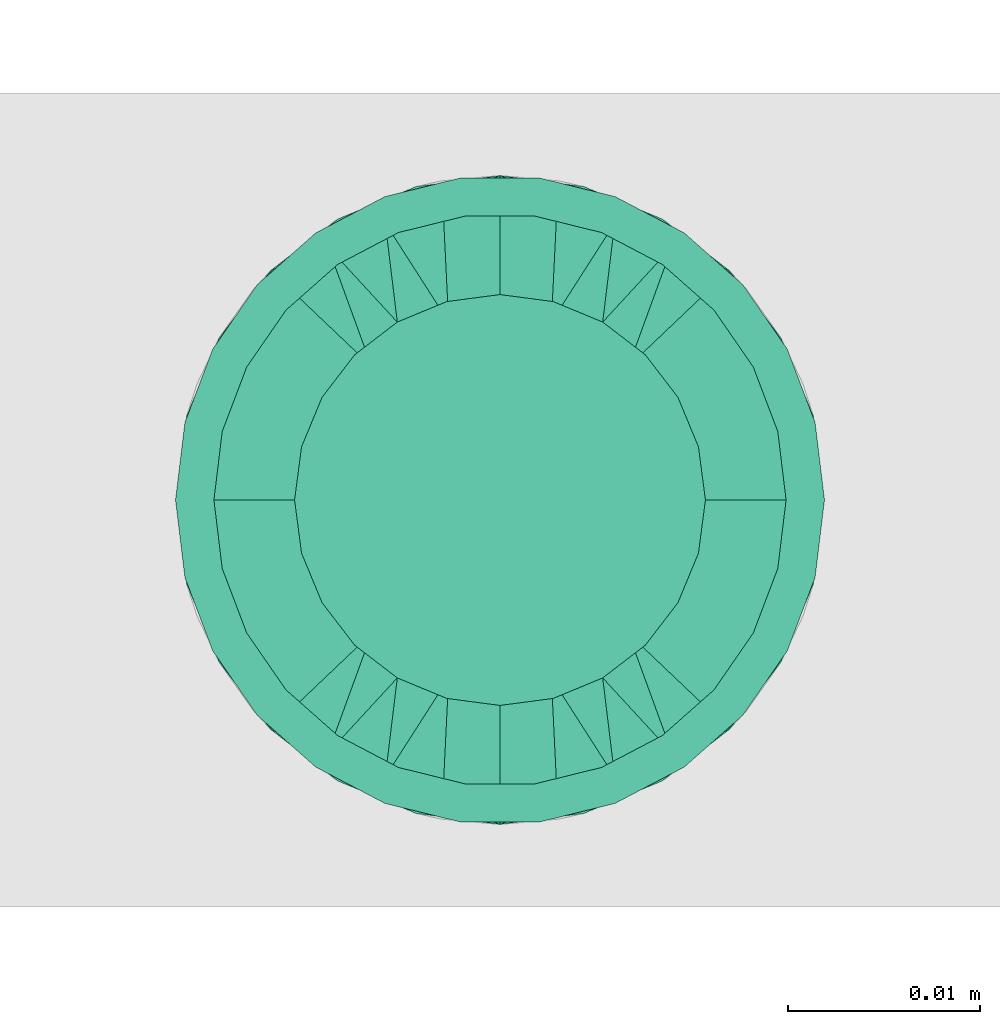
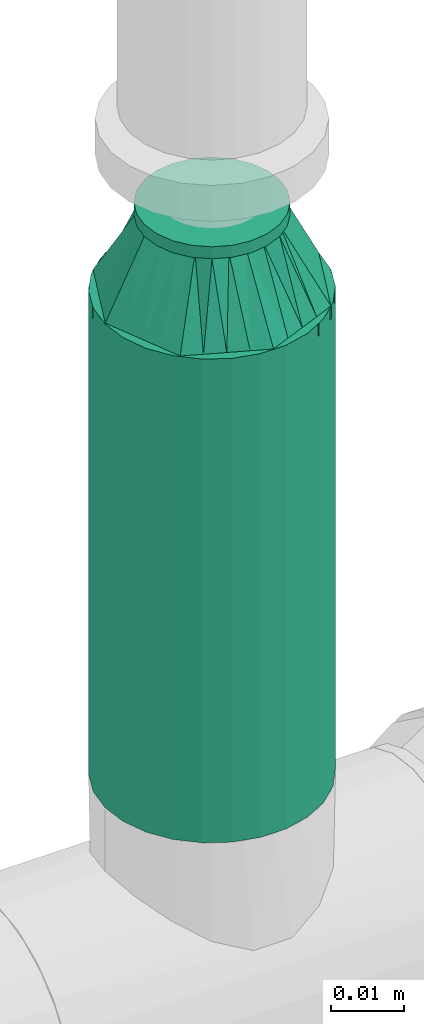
# One storey, part 76 of 94: 1 flow fitting, 1 flow segment.
"""IFC2X3 building model written with IfcOpenShell, lengths in millimetres."""

from ifc_helpers import new_model, entity, si_unit, converted_unit, derived_unit, direction, frame, origin_with_axes, origin_2d_with_axis, place, context, subcontext, project, spatial, hollow_circle, extrude, open_shell, surface_model, source, transform, mapped, type_object, element, save


model = new_model("IFC2X3")

# Units and contexts
model_context = context("Model", 3, precision=0.01, world=frame((0.0, 4.29681676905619e-09, 0.0)), true_north=direction((4.01073788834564e-13, 1.0)))
plan_context = context("Plan", 3, precision=0.01, world=frame((0.0, 4.29681676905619e-09, 0.0)), true_north=direction((4.01073788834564e-13, 1.0)))
body_context = subcontext(model_context, "Body", "Model", "MODEL_VIEW")
ifc_project = project(units=[converted_unit("PLANEANGLEUNIT", "DEGREE", entity("IfcPositiveLengthMeasure", 0.0174532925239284), si_unit("PLANEANGLEUNIT", "RADIAN"), dimensions=[0, 0, 0, 0, 0, 0, 0]), si_unit("AREAUNIT", "SQUARE_METRE"), si_unit("LENGTHUNIT", "METRE", prefix="MILLI"), si_unit("MASSUNIT", "GRAM", prefix="KILO"), si_unit("POWERUNIT", "WATT"), si_unit("PRESSUREUNIT", "PASCAL"), si_unit("FORCEUNIT", "NEWTON", prefix="KILO"), si_unit("ELECTRICCURRENTUNIT", "AMPERE"), si_unit("THERMODYNAMICTEMPERATUREUNIT", "DEGREE_CELSIUS"), si_unit("TIMEUNIT", "SECOND"), si_unit("VOLUMEUNIT", "CUBIC_METRE"), derived_unit("LINEARVELOCITYUNIT", [(si_unit("LENGTHUNIT", "METRE"), 1), (si_unit("TIMEUNIT", "SECOND"), -1)]), derived_unit("VOLUMETRICFLOWRATEUNIT", [(si_unit("VOLUMEUNIT", "CUBIC_METRE"), 1), (si_unit("TIMEUNIT", "SECOND"), -1)]), derived_unit("THERMALTRANSMITTANCEUNIT", [(si_unit("POWERUNIT", "WATT"), 1), (si_unit("THERMODYNAMICTEMPERATUREUNIT", "KELVIN"), -1), (si_unit("AREAUNIT", "SQUARE_METRE"), -1)])], contexts=[model_context, plan_context])

# Site, building, storey
site_placement = place(None, frame((0.0, -4.29681676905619e-09, 0.0), z_axis=(0.0, 0.0, 1.0), x_axis=(1.0, 0.0, 0.0)))
site = spatial("IfcSite", under=ifc_project, at=site_placement, CompositionType="ELEMENT")
building_placement = place(site_placement, frame((0.0, 4.29681676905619e-09, 0.0), z_axis=(0.0, 0.0, 1.0), x_axis=(1.0, 0.0, 0.0)))
building = spatial("IfcBuilding", under=site, at=building_placement, Name="mc-building", CompositionType="ELEMENT")
storey_placement = place(building_placement, frame((0.0, 0.0, 200300.0), z_axis=(0.0, 0.0, 1.0), x_axis=(1.0, 0.0, 0.0)))
storey = spatial("IfcBuildingStorey", under=building, at=storey_placement, Name="Nivå C", CompositionType="ELEMENT", Elevation=200300.0)

# Flow fitting
pipe_fitting_type = type_object("IfcPipeFittingType", Name="magi_pipe_fe_reducer_centric_short_NOR", PredefinedType="TRANSITION")
shared_shape_1 = source(origin_with_axes(), body_context, "Body", "SurfaceModel", [
    surface_model("IfcShellBasedSurfaceModel", [(14.4, 5.35, -9.26647), (14.4, 0.0, -10.7), (14.4, 2.76936, -10.33541), (14.4, 10.33541, -2.76936), (14.4, 7.56604, -7.56604), (14.4, -10.33541, -2.76936), (14.4, 9.26647, -5.35), (14.4, 0.0, 10.7), (14.4, -5.35, -9.26647), (14.4, -2.76936, -10.33541), (14.4, -7.56604, -7.56604), (14.4, -9.26647, -5.35), (14.4, 10.7, 0.0), (14.4, 10.33541, 2.76936), (14.4, 9.26647, 5.35), (14.4, 7.56604, 7.56604), (14.4, 2.76936, 10.33541), (14.4, 5.35, 9.26647), (14.4, -10.33541, 2.76936), (14.4, -7.56604, 7.56604), (14.4, -9.26647, 5.35), (14.4, -10.7, 0.0), (14.4, -2.76936, 10.33541), (14.4, -5.35, 9.26647), (12.4, 2.76936, 10.33541), (12.4, -10.33541, -2.76936), (12.4, 0.0, 10.7), (12.4, 5.35, 9.26647), (12.4, 7.56604, 7.56604), (12.4, 9.26647, 5.35), (12.4, 10.33541, 2.76936), (12.4, -10.33541, 2.76936), (12.4, -2.76936, 10.33541), (12.4, -7.56604, 7.56604), (12.4, -5.35, 9.26647), (12.4, -9.26647, 5.35), (12.4, -10.7, 0.0), (12.4, 10.33541, -2.76936), (12.4, 5.35, -9.26647), (12.4, 9.26647, -5.35), (12.4, 7.56604, -7.56604), (12.4, 2.76936, -10.33541), (12.4, -9.26647, -5.35), (12.4, -5.35, -9.26647), (12.4, -7.56604, -7.56604), (12.4, 0.0, -10.7), (12.4, -2.76936, -10.33541), (12.4, 10.7, 0.0), (-2.0, 11.9501, 11.9501), (-2.0, 0.0, 16.9), (-2.0, 4.37404, 16.32415), (-2.0, 8.45, 14.63583), (-2.0, 14.63583, 8.45), (-2.0, 16.32415, 4.37404), (-2.0, -16.32415, 4.37404), (-2.0, -8.45, 14.63583), (-2.0, -14.63583, 8.45), (-2.0, -11.9501, 11.9501), (-2.0, -4.37404, 16.32415), (-2.0, -16.32415, -4.37404), (-2.0, -16.9, 0.0), (-2.0, -8.45, -14.63583), (-2.0, 16.32415, -4.37404), (-2.0, 11.9501, -11.9501), (-2.0, 14.63583, -8.45), (-2.0, 8.45, -14.63583), (-2.0, 4.37404, -16.32415), (-2.0, 0.0, -16.9), (-2.0, -11.9501, -11.9501), (-2.0, -14.63583, -8.45), (-2.0, -4.37404, -16.32415), (-2.0, 16.9, 0.0), (0.0, 4.37404, -16.32415), (0.0, 8.45, -14.63583), (0.0, 11.9501, -11.9501), (0.0, 0.0, -16.9), (0.0, 16.32415, -4.37404), (0.0, 16.32415, 4.37404), (0.0, 14.63583, -8.45), (0.0, -8.45, -14.63583), (0.0, -4.37404, -16.32415), (0.0, -11.9501, -11.9501), (0.0, -16.32415, -4.37404), (0.0, -14.63583, -8.45), (0.0, -16.32415, 4.37404), (0.0, 16.9, 0.0), (0.0, 14.63583, 8.45), (0.0, 11.9501, 11.9501), (0.0, 4.37404, 16.32415), (0.0, 8.45, 14.63583), (0.0, 0.0, 16.9), (0.0, -14.63583, 8.45), (0.0, -16.9, 0.0), (0.0, -8.45, 14.63583), (0.0, -11.9501, 11.9501), (0.0, -4.37404, 16.32415), (12.4, 9.3625, -2.31662), (0.0, 14.42505, -5.97505), (0.0, 15.66253, -2.98753), (12.4, -6.6875, -6.94985), (0.0, -13.18758, -8.96258), (0.0, 2.98753, -15.66253), (12.4, 0.0, -9.26647), (12.4, 6.6875, -6.94985), (0.0, 8.96258, -13.18758), (12.4, -9.3625, -2.31662), (0.0, -15.66253, -2.98753), (0.0, -14.42505, -5.97505), (0.0, 5.97505, -14.42505), (0.0, -2.98753, -15.66253), (0.0, -8.96258, -13.18758), (0.0, 13.18758, -8.96258), (12.4, 8.025, -4.63324), (12.4, -2.675, -9.26647), (12.4, 2.675, -9.26647), (0.0, -5.97505, -14.42505), (12.4, -8.025, -4.63324), (12.4, -9.3625, 2.31662), (0.0, -14.42505, 5.97505), (0.0, -15.66253, 2.98753), (12.4, 6.6875, 6.94985), (0.0, 13.18758, 8.96258), (0.0, -2.98753, 15.66253), (12.4, 0.0, 9.26647), (12.4, -6.6875, 6.94985), (0.0, -8.96258, 13.18758), (12.4, 9.3625, 2.31662), (0.0, 15.66253, 2.98753), (0.0, 14.42505, 5.97505), (0.0, -5.97505, 14.42505), (0.0, 2.98753, 15.66253), (0.0, 8.96258, 13.18758), (0.0, -13.18758, 8.96258), (12.4, -8.025, 4.63324), (12.4, 2.675, 9.26647), (12.4, -2.675, 9.26647), (0.0, 5.97505, 14.42505), (12.4, 8.025, 4.63324)], [open_shell([[[0, 1, 2]], [[3, 0, 4]], [[5, 0, 3]], [[3, 4, 6]], [[7, 5, 3]], [[1, 8, 9]], [[1, 0, 8]], [[10, 5, 11]], [[5, 10, 8]], [[0, 5, 8]], [[3, 12, 13]], [[13, 14, 15]], [[13, 15, 16]], [[7, 3, 16]], [[16, 15, 17]], [[7, 18, 5]], [[18, 19, 20]], [[21, 5, 18]], [[19, 22, 23]], [[22, 19, 18]], [[7, 22, 18]], [[13, 16, 3]], [[24, 25, 26]], [[27, 25, 24]], [[28, 29, 30]], [[28, 25, 27]], [[31, 26, 25]], [[32, 33, 34]], [[33, 32, 31]], [[33, 31, 35]], [[32, 26, 31]], [[31, 25, 36]], [[30, 37, 28]], [[25, 28, 37]], [[38, 37, 39]], [[37, 38, 25]], [[38, 39, 40]], [[41, 25, 38]], [[42, 43, 44]], [[43, 42, 25]], [[43, 45, 46]], [[43, 25, 41]], [[41, 45, 43]], [[37, 30, 47]], [[25, 5, 36]], [[42, 11, 25]], [[8, 44, 43]], [[42, 44, 10]], [[9, 43, 46]], [[25, 11, 5]], [[5, 21, 36]], [[9, 8, 43]], [[10, 44, 8]], [[10, 11, 42]], [[1, 9, 46]], [[46, 45, 1]], [[41, 2, 45]], [[38, 0, 41]], [[6, 40, 39]], [[38, 40, 4]], [[3, 39, 37]], [[38, 4, 0]], [[0, 2, 41]], [[12, 3, 37]], [[6, 39, 3]], [[6, 4, 40]], [[47, 12, 37]], [[45, 2, 1]], [[30, 13, 47]], [[29, 14, 30]], [[17, 28, 27]], [[29, 28, 15]], [[16, 27, 24]], [[30, 14, 13]], [[13, 12, 47]], [[16, 17, 27]], [[15, 28, 17]], [[15, 14, 29]], [[7, 16, 24]], [[24, 26, 7]], [[32, 22, 26]], [[34, 23, 32]], [[20, 33, 35]], [[34, 33, 19]], [[18, 35, 31]], [[34, 19, 23]], [[23, 22, 32]], [[21, 18, 31]], [[20, 35, 18]], [[20, 19, 33]], [[36, 21, 31]], [[26, 22, 7]], [[48, 49, 50]], [[48, 50, 51]], [[48, 52, 53]], [[48, 53, 49]], [[49, 53, 54]], [[55, 56, 57]], [[55, 58, 49]], [[56, 55, 49]], [[49, 54, 56]], [[54, 59, 60]], [[54, 53, 61]], [[53, 62, 63]], [[63, 62, 64]], [[63, 65, 66]], [[61, 53, 63]], [[67, 63, 66]], [[59, 68, 69]], [[68, 59, 61]], [[61, 67, 70]], [[59, 54, 61]], [[63, 67, 61]], [[53, 71, 62]], [[72, 73, 74]], [[75, 72, 74]], [[74, 76, 77]], [[76, 74, 78]], [[74, 77, 79]], [[75, 79, 80]], [[75, 74, 79]], [[81, 82, 83]], [[82, 81, 79]], [[79, 84, 82]], [[77, 76, 85]], [[77, 86, 87]], [[77, 87, 88]], [[88, 84, 79]], [[88, 87, 89]], [[84, 88, 90]], [[90, 91, 84]], [[92, 82, 84]], [[91, 93, 94]], [[91, 90, 93]], [[93, 90, 95]], [[79, 77, 88]], [[59, 82, 60]], [[69, 83, 59]], [[79, 68, 61]], [[69, 68, 81]], [[80, 61, 70]], [[59, 83, 82]], [[82, 92, 60]], [[80, 79, 61]], [[81, 68, 79]], [[81, 83, 69]], [[75, 80, 70]], [[70, 67, 75]], [[66, 72, 67]], [[65, 73, 66]], [[78, 63, 64]], [[65, 63, 74]], [[76, 64, 62]], [[65, 74, 73]], [[73, 72, 66]], [[85, 76, 62]], [[78, 64, 76]], [[78, 74, 63]], [[71, 85, 62]], [[67, 72, 75]], [[53, 77, 71]], [[52, 86, 53]], [[89, 48, 51]], [[52, 48, 87]], [[88, 51, 50]], [[53, 86, 77]], [[77, 85, 71]], [[88, 89, 51]], [[87, 48, 89]], [[87, 86, 52]], [[90, 88, 50]], [[50, 49, 90]], [[58, 95, 49]], [[55, 93, 58]], [[91, 57, 56]], [[55, 57, 94]], [[84, 56, 54]], [[55, 94, 93]], [[93, 95, 58]], [[92, 84, 54]], [[91, 56, 84]], [[91, 94, 57]], [[60, 92, 54]], [[49, 95, 90]], [[27, 34, 47]], [[47, 34, 43]], [[43, 38, 47]], [[43, 34, 36]], [[90, 87, 94]], [[92, 94, 87]], [[87, 74, 92]], [[75, 92, 74]], [[81, 92, 75]], [[74, 87, 85]], [[96, 97, 98]], [[81, 99, 100]], [[101, 102, 75]], [[98, 85, 47]], [[74, 103, 104]], [[104, 103, 38]], [[105, 106, 107]], [[38, 108, 104]], [[102, 109, 75]], [[110, 99, 81]], [[47, 96, 98]], [[103, 111, 112]], [[109, 102, 113]], [[36, 92, 106]], [[102, 101, 114]], [[110, 115, 43]], [[96, 112, 97]], [[107, 116, 105]], [[36, 106, 105]], [[113, 115, 109]], [[43, 115, 113]], [[116, 107, 100]], [[108, 38, 114]], [[111, 103, 74]], [[111, 97, 112]], [[99, 110, 43]], [[116, 100, 99]], [[101, 108, 114]], [[117, 118, 119]], [[87, 120, 121]], [[122, 123, 90]], [[119, 92, 36]], [[94, 124, 125]], [[125, 124, 34]], [[126, 127, 128]], [[34, 129, 125]], [[123, 130, 90]], [[131, 120, 87]], [[36, 117, 119]], [[124, 132, 133]], [[130, 123, 134]], [[47, 85, 127]], [[123, 122, 135]], [[131, 136, 27]], [[117, 133, 118]], [[128, 137, 126]], [[47, 127, 126]], [[134, 136, 130]], [[27, 136, 134]], [[137, 128, 121]], [[129, 34, 135]], [[132, 124, 94]], [[132, 118, 133]], [[120, 131, 27]], [[137, 121, 120]], [[122, 129, 135]]])]),
])
flow_fitting_placement = place(storey_placement, frame((530502.26879, 416298.62756, 2962.64799999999), z_axis=(0.0, -1.0, 0.0), x_axis=(0.0, 0.0, 1.0)))
element("IfcFlowFitting", 1, at=flow_fitting_placement, inside=storey, type_object=pipe_fitting_type, Name="magi_pipe_fe_reducer_centric_short_NOR", context=body_context, shape_type="MappedRepresentation", body=[
    mapped(shared_shape_1, transform((0.0, 0.0, 0.0), scale=1.0)),
])

# Flow segment
pipe_segment_type = type_object("IfcPipeSegmentType", Name="Stålrør normaltykke", PredefinedType="RIGIDSEGMENT")
shared_shape_2 = source(origin_with_axes(), body_context, "Body", "SweptSolid", [
    extrude(hollow_circle(Radius=16.9, WallThickness=2.0, at=origin_2d_with_axis()), frame((0.0, 0.0, 0.0), z_axis=(1.0, 0.0, 0.0), x_axis=(0.0, 1.0, 0.0)), (0.0, 0.0, 1.0), 80.8),
])
flow_segment_placement = place(storey_placement, frame((530502.26879, 416298.62756, 2881.79999999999), z_axis=(0.0, 1.0, 0.0), x_axis=(0.0, 0.0, 1.0)))
element("IfcFlowSegment", 2, at=flow_segment_placement, inside=storey, type_object=pipe_segment_type, Name="Stålrør normaltykke", context=body_context, shape_type="MappedRepresentation", body=[
    mapped(shared_shape_2, transform((0.0, 0.0, 0.0), scale=1.0)),
])

save(model, "model.ifc")
